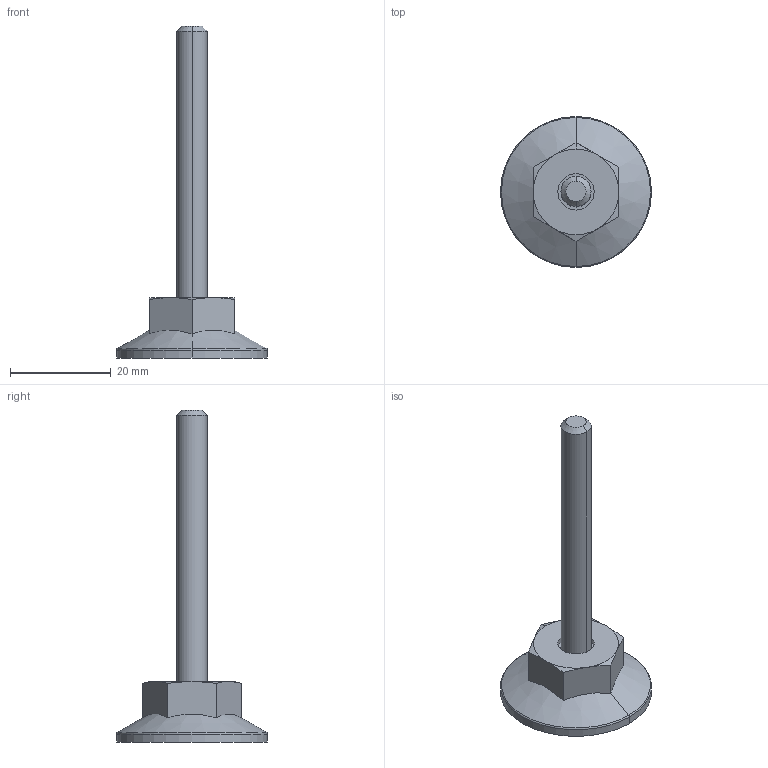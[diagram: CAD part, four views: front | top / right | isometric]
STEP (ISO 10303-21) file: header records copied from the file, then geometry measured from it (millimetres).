
FILE_DESCRIPTION (( 'STEP AP203' ), '1' );
FILE_NAME ('elps30-m6x54.STEP', '2021-10-25T02:06:47', ( '' ), ( '' ), 'SwSTEP 2.0', 'SolidWorks 2020', '' );
FILE_SCHEMA (( 'CONFIG_CONTROL_DESIGN' ));
Length unit declared in the file: millimetre
Products named in the file (1): elps30-m6x54
Bounding box: 30 x 30 x 66 mm (x, y, z)
Volume: 6026 mm3; surface area: 3130 mm2
Topology: 1 solids, 1 shells, 42 faces, 96 edges, 59 vertices
Faces by surface type: plane 23, cone 11, cylinder 6, torus 2
Entity records: 1308 total; most frequent: CARTESIAN_POINT 300, ORIENTED_EDGE 192, DIRECTION 189, EDGE_CURVE 96, AXIS2_PLACEMENT_3D 68, VERTEX_POINT 59, LINE 53, VECTOR 53
